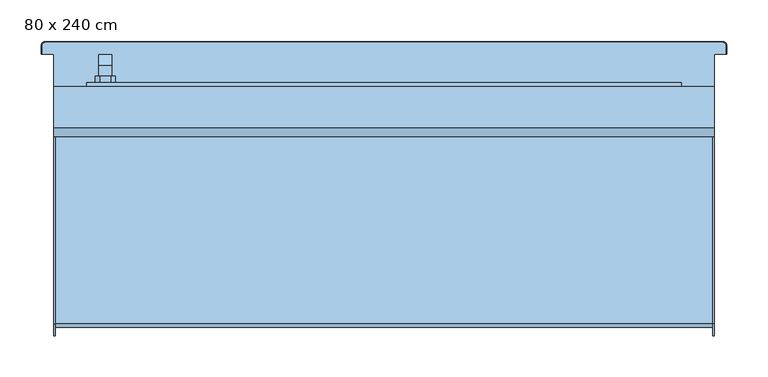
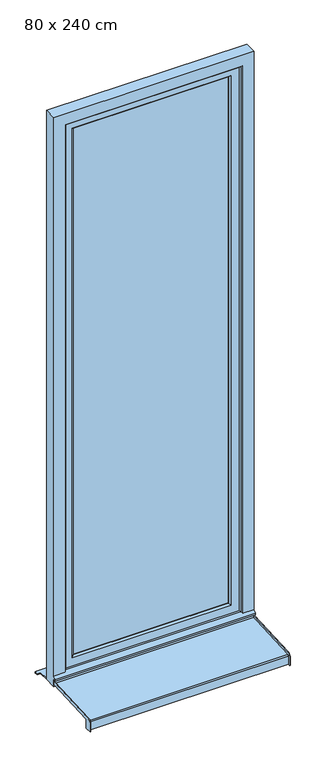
"""IFC4 building model written with IfcOpenShell, lengths in millimetres: window geometry, Fenêtre type 1 : 80 x 240 cm."""

from ifc_helpers import new_model, si_unit, frame, origin, place, context, project, spatial, polyline, circle_curve, outline, extrude, faceted_brep, source, transform, mapped, element, save
from ifc_brep_helpers import plane_surface, cylinder_surface, revolved_surface, advanced_brep


def window_80_x_240_cm_e62f5820(model_context):
    return source(origin(), model_context, "Body", "SolidModel", [
        faceted_brep([(-345.5, 123.0, 1306.0), (-345.5, 123.0, 1294.0), (-329.5, 123.0, 1294.0), (-329.5, 123.0, 1306.0), (-329.5, 135.4852814, 1306.0), (-345.5, 135.4852814, 1306.0), (-329.5, 130.5147186, 1294.0), (-329.5, 137.0, 1287.5147186), (-329.5, 137.0, 1287.2282668), (-329.5, 139.7580139, 1208.5355339), (-329.5, 149.0, 1208.5355339), (-329.5, 149.0, 1292.4852814), (-345.5, 130.5147186, 1294.0), (-345.5, 149.0, 1292.4852814), (-345.5, 149.0, 1208.5355339), (-345.5, 139.7580139, 1208.5355339), (-345.5, 137.0099909, 1287.2286157), (-345.5, 137.0, 1287.5147186), (-333.0355339, 149.0, 1205.0), (-333.0355339, 139.8814775, 1205.0), (-341.9644661, 139.8814775, 1205.0), (-341.9644661, 149.0, 1205.0)], [[[0, 1, 2, 3]], [[3, 4, 5, 0]], [[2, 6, 7, 8, 9, 10, 11, 4, 3]], [[1, 12, 6, 2]], [[0, 5, 13, 14, 15, 16, 17, 12, 1]], [[4, 11, 13, 5]], [[6, 12, 17, 7]], [[18, 19, 20, 21]], [[11, 10, 18, 21, 14, 13]], [[17, 16, 8, 7]], [[16, 15, 20, 19, 9, 8]], [[9, 19, 18, 10]], [[14, 21, 20, 15]]]),
        extrude(outline(polyline([(1330.0, -344.5), (1325.0, -349.5), (1275.0, -349.5), (1270.0, -344.5), (1270.0, -330.5), (1275.0, -325.5), (1325.0, -325.5), (1330.0, -330.5), (1330.0, -344.5)])), frame((0.0, 115.0, 0.0), z_axis=(0.0, 1.0, 0.0), x_axis=(0.0, 0.0, 1.0)), (0.0, 0.0, 1.0), 8.0),
        advanced_brep(
        [(-400.0, -165.0, 762.0), (-400.0, -191.5, 762.0), (-400.0, -191.5, 795.1063906), (-400.0, -177.2850393, 810.0858337), (-400.0, 60.0, 822.5214156), (-400.0, 60.0, 811.0056336), (-400.0, -165.0, 799.2138833), (400.0, -165.0, 799.2138833), (400.0, 60.0, 811.0056336), (400.0, 60.0, 822.5214156), (400.0, -177.2850393, 810.0858337), (400.0, -191.5, 795.1063906), (400.0, -191.5, 762.0), (400.0, -165.0, 762.0), (-398.0, 60.0, 822.5214156), (-398.0, 60.0, 812.5076922), (398.0, 60.0, 812.5076922), (398.0, 60.0, 822.5214156), (-398.0, -176.7616798, 800.0995383), (398.0, -176.7616798, 800.0995383), (398.0, -181.5, 795.1063906), (-398.0, -181.5, 795.1063906), (-398.0, -181.5, 762.0), (398.0, -181.5, 762.0), (-398.0, -180.0, 762.0), (398.0, -180.0, 762.0), (398.0, -165.0, 762.0), (398.0, -191.5, 762.0), (-398.0, -191.5, 762.0), (-398.0, -165.0, 762.0), (-398.0, -170.0, 772.0), (398.0, -170.0, 772.0), (-398.0, -171.0606602, 773.0606602), (398.0, -171.0606602, 773.0606602), (-398.0, -180.0, 764.1213203), (398.0, -180.0, 764.1213203), (-398.0, -180.0, 795.0728058), (398.0, -180.0, 795.0728058), (-398.0, -165.0, 799.2138833), (398.0, -165.0, 799.2138833), (398.0, -176.649637, 798.6033517), (-398.0, -176.649637, 798.6033517), (398.0, -191.5, 795.1063906), (398.0, -177.2850393, 810.0858337), (-398.0, -177.2850393, 810.0858337), (-398.0, -191.5, 795.1063906)],
        [
            (0, 1),
            (1, 2),
            (2, 3, circle_curve(frame((-400.0, -176.5, 795.1063906), z_axis=(-1.0, 0.0, 0.0), x_axis=(0.0, -0.05233595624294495, 0.9986295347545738)), 15.0)),
            (3, 4),
            (4, 5),
            (5, 6),
            (6, 0),
            (7, 8),
            (8, 9),
            (9, 10),
            (10, 11, circle_curve(frame((400.0, -176.5, 795.1063906), z_axis=(1.0, 0.0, 0.0), x_axis=(0.0, -1.0, 0.0)), 15.0)),
            (11, 12),
            (12, 13),
            (13, 7),
            (14, 15),
            (15, 16),
            (16, 17),
            (17, 9),
            (8, 5),
            (4, 14),
            (18, 19),
            (19, 16),
            (15, 18),
            (20, 21),
            (21, 22),
            (22, 23),
            (23, 20),
            (24, 25),
            (25, 26),
            (26, 13),
            (12, 27),
            (27, 23),
            (22, 28),
            (28, 1),
            (0, 29),
            (29, 24),
            (30, 31),
            (31, 25),
            (24, 30),
            (32, 33),
            (33, 31),
            (30, 32),
            (34, 35),
            (35, 33),
            (32, 34),
            (36, 37),
            (37, 35),
            (34, 36),
            (38, 6),
            (7, 39),
            (39, 40),
            (40, 41),
            (41, 38),
            (41, 36, circle_curve(frame((-398.0, -176.4646089, 795.0728058), z_axis=(1.0, 0.0, 0.0), x_axis=(0.0, 1.0, 0.0)), 3.5353911)),
            (29, 38),
            (37, 40, circle_curve(frame((398.0, -176.4646089, 795.0728058), z_axis=(-1.0, 0.0, 0.0), x_axis=(0.0, 1.0, 0.0)), 3.5353911)),
            (39, 26),
            (18, 21, circle_curve(frame((-398.0, -176.5, 795.1063906), z_axis=(1.0, 0.0, 0.0), x_axis=(0.0, 1.0, 0.0)), 5.0)),
            (20, 19, circle_curve(frame((398.0, -176.5, 795.1063906), z_axis=(-1.0, 0.0, 0.0), x_axis=(0.0, 1.0, 0.0)), 5.0)),
            (27, 42),
            (42, 43, circle_curve(frame((398.0, -176.5, 795.1063906), z_axis=(-1.0, 0.0, 0.0), x_axis=(0.0, -1.0, 0.0)), 15.0)),
            (43, 17),
            (11, 42),
            (10, 43),
            (14, 44),
            (44, 45, circle_curve(frame((-398.0, -176.5, 795.1063906), z_axis=(1.0, 0.0, 0.0), x_axis=(0.0, -0.05233595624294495, 0.9986295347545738)), 15.0)),
            (45, 28),
            (3, 44),
            (2, 45),
        ],
        [
            plane_surface(frame((-400.0, 60.0, 811.0056336), z_axis=(-1.0, 0.0, 0.0), x_axis=(0.0, 0.0, 1.0))),
            plane_surface(frame((400.0, 60.0, 811.0056336), z_axis=(1.0, 0.0, 0.0), x_axis=(0.0, 0.0, -1.0))),
            plane_surface(frame((-400.0, 60.0, 811.0056336), z_axis=(0.0, 1.0, 0.0), x_axis=(1.0, 0.0, 0.0))),
            plane_surface(frame((-400.0, 60.0, 812.5076922), z_axis=(0.0, -0.05233595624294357, 0.9986295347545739), x_axis=(1.0, 0.0, 0.0))),
            plane_surface(frame((-400.0, -181.5, 795.1063906), z_axis=(0.0, -1.0, 0.0), x_axis=(1.0, 0.0, 0.0))),
            plane_surface(frame((-400.0, -181.5, 762.0), z_axis=(0.0, 0.0, -1.0), x_axis=(1.0, 0.0, 0.0))),
            plane_surface(frame((-400.0, -180.0, 762.0), z_axis=(0.0, 0.7071067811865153, -0.7071067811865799), x_axis=(1.0, 0.0, 0.0))),
            plane_surface(frame((-400.0, -170.0, 772.0), z_axis=(0.0, 0.7071067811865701, 0.707106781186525), x_axis=(1.0, 0.0, 0.0))),
            plane_surface(frame((-400.0, -171.0606602, 773.0606602), z_axis=(0.0, -0.7071067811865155, 0.7071067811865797), x_axis=(1.0, 0.0, 0.0))),
            plane_surface(frame((-400.0, -180.0, 764.1213203), z_axis=(0.0, 1.0, 0.0), x_axis=(1.0, 0.0, 0.0))),
            plane_surface(frame((-400.0, -176.649637, 798.6033517), z_axis=(0.0, 0.052335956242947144, -0.9986295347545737), x_axis=(1.0, 0.0, 0.0))),
            plane_surface(frame((-398.0, -180.0, 798.4277666), z_axis=(1.0, 0.0, 0.0), x_axis=(0.0, 0.9986295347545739, 0.05233595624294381))),
            plane_surface(frame((-400.0, -165.0, 762.0), z_axis=(0.0, 1.0, 0.0), x_axis=(1.0, 0.0, 0.0))),
            plane_surface(frame((398.0, -180.0, 798.4277666), z_axis=(-1.0, 0.0, 0.0), x_axis=(0.0, 0.0, -1.0))),
            plane_surface(frame((398.0, -165.0, 762.0), z_axis=(0.0, 1.0, 0.0), x_axis=(1.0, 0.0, 0.0))),
            cylinder_surface(frame((400.0, -176.5, 795.1063906), z_axis=(-1.0, 0.0, 0.0), x_axis=(0.0, 1.0, 0.0)), 5.0),
            revolved_surface(polyline([(398.0, -172.9292178, 795.0728058), (-398.0, -172.9292178, 795.0728058)]), (400.0, -176.4646089, 795.0728058), (1.0, 0.0, 0.0)),
            plane_surface(frame((398.0, -181.5, 762.0), z_axis=(-1.0, 0.0, 0.0), x_axis=(0.0, 0.0, 1.0))),
            plane_surface(frame((398.0, -191.5, 762.0), z_axis=(0.0, -1.0, 0.0), x_axis=(0.0, 0.0, 1.0))),
            cylinder_surface(frame((400.0, -176.5, 795.1063906), z_axis=(1.0, 0.0, 0.0), x_axis=(0.0, -1.0, 0.0)), 15.0),
            plane_surface(frame((398.0, -177.2850393, 810.0858337), z_axis=(0.0, -0.05233595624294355, 0.9986295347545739), x_axis=(0.0, 0.9986295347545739, 0.05233595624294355))),
            plane_surface(frame((-398.0, 60.0, 822.5214156), z_axis=(1.0, 0.0, 0.0), x_axis=(0.0, 0.9986295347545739, 0.05233595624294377))),
            plane_surface(frame((-400.0, 60.0, 822.5214156), z_axis=(0.0, -0.05233595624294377, 0.9986295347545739), x_axis=(1.0, 0.0, 0.0))),
            cylinder_surface(frame((-400.0, -176.5, 795.1063906), z_axis=(-1.0, 0.0, 0.0), x_axis=(0.0, -0.05233595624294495, 0.9986295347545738)), 15.0),
            plane_surface(frame((-398.0, -191.5, 795.1063906), z_axis=(0.0, -1.0, 0.0), x_axis=(0.0, 0.0, -1.0))),
        ],
        [
            (0, [[1, 2, 3, 4, 5, 6, 7]]),
            (1, [[8, 9, 10, 11, 12, 13, 14]]),
            (2, [[15, 16, 17, 18, -9, 19, -5, 20]]),
            (3, [[21, 22, -16, 23]]),
            (4, [[24, 25, 26, 27]]),
            (5, [[28, 29, 30, -13, 31, 32, -26, 33, 34, -1, 35, 36]]),
            (6, [[37, 38, -28, 39]]),
            (7, [[40, 41, -37, 42]]),
            (8, [[43, 44, -40, 45]]),
            (9, [[46, 47, -43, 48]]),
            (10, [[49, -6, -19, -8, 50, 51, 52, 53]]),
            (11, [[-53, 54, -48, -45, -42, -39, -36, 55]]),
            (12, [[-35, -7, -49, -55]]),
            (13, [[-38, -41, -44, -47, 56, -51, 57, -29]]),
            (14, [[-50, -14, -30, -57]]),
            (15, [[-21, 58, -24, 59]]),
            (16, [[-52, -56, -46, -54]]),
            (17, [[60, 61, 62, -17, -22, -59, -27, -32]]),
            (18, [[-12, 63, -60, -31]]),
            (19, [[64, -61, -63, -11]]),
            (20, [[-10, -18, -62, -64]]),
            (21, [[65, 66, 67, -33, -25, -58, -23, -15]]),
            (22, [[68, -65, -20, -4]]),
            (23, [[69, -66, -68, -3]]),
            (24, [[-34, -67, -69, -2]]),
        ],
    ),
        extrude(outline(polyline([(-310.0, 105.0), (310.0, 105.0), (310.0, 85.0), (-310.0, 85.0), (-310.0, 105.0)])), frame((0.0, 0.0, 890.0), z_axis=(0.0, 0.0, 1.0), x_axis=(1.0, 0.0, 0.0)), (0.0, 0.0, 1.0), 2220.0),
        faceted_brep([(-360.0, 115.0, 840.0), (360.0, 115.0, 840.0), (360.0, 75.0, 840.0), (-360.0, 75.0, 840.0), (360.0, 115.0, 3160.0), (360.0, 75.0, 3160.0), (-360.0, 75.0, 3160.0), (317.0710678, 75.0, 3117.0710678), (317.0710678, 75.0, 882.9289322), (-317.0710678, 75.0, 882.9289322), (-317.0710678, 75.0, 3117.0710678), (-360.0, 115.0, 3160.0), (317.0710678, 115.0, 882.9289322), (317.0710678, 115.0, 3117.0710678), (-317.0710678, 115.0, 3117.0710678), (-317.0710678, 115.0, 882.9289322), (-310.0, 107.9289322, 890.0), (310.0, 107.9289322, 890.0), (310.0, 107.9289322, 3110.0), (310.0, 82.0710678, 890.0), (310.0, 82.0710678, 3110.0), (-310.0, 82.0710678, 890.0), (-310.0, 107.9289322, 3110.0), (-310.0, 82.0710678, 3110.0)], [[[0, 1, 2, 3]], [[1, 4, 5, 2]], [[2, 5, 6, 3], [7, 8, 9, 10]], [[4, 1, 0, 11], [12, 13, 14, 15]], [[16, 17, 12, 15]], [[17, 18, 13, 12]], [[19, 20, 18, 17]], [[9, 8, 19, 21]], [[8, 7, 20, 19]], [[11, 0, 3, 6]], [[22, 16, 15, 14]], [[23, 21, 16, 22]], [[10, 9, 21, 23]], [[21, 19, 17, 16]], [[4, 11, 6, 5]], [[18, 22, 14, 13]], [[7, 10, 23, 20]], [[20, 23, 22, 18]]]),
        faceted_brep([(400.0, 60.0, 800.0), (400.0, 110.0, 800.0), (400.0, 110.0, 3200.0), (400.0, 60.0, 3200.0), (400.0, 60.0, 845.0), (400.0, 50.0, 835.0), (400.0, 50.0, 830.0), (400.0, 60.0, 830.0), (-400.0, 60.0, 830.0), (-400.0, 60.0, 800.0), (-400.0, 50.0, 830.0), (-400.0, 50.0, 835.0), (355.0, 60.0, 845.0), (350.0, 65.0, 850.0), (-350.0, 65.0, 850.0), (-355.0, 60.0, 845.0), (-400.0, 60.0, 845.0), (-400.0, 60.0, 3200.0), (-355.0, 60.0, 3155.0), (355.0, 60.0, 3155.0), (-400.0, 110.0, 800.0), (-400.0, 110.0, 3200.0), (360.0, 110.0, 840.0), (360.0, 110.0, 3160.0), (-360.0, 110.0, 3160.0), (-360.0, 110.0, 840.0), (-360.0, 75.0, 840.0), (360.0, 75.0, 840.0), (-360.0, 75.0, 3160.0), (360.0, 75.0, 3160.0), (350.0, 75.0, 850.0), (350.0, 75.0, 3150.0), (-350.0, 75.0, 3150.0), (-350.0, 75.0, 850.0), (-350.0, 65.0, 3150.0), (350.0, 65.0, 3150.0)], [[[0, 1, 2, 3, 4, 5, 6, 7]], [[7, 8, 9, 0]], [[6, 10, 8, 7]], [[5, 11, 10, 6]], [[5, 4, 12, 13, 14, 15, 16, 11]], [[17, 16, 15, 18, 19, 12, 4, 3]], [[1, 20, 21, 2], [22, 23, 24, 25]], [[0, 9, 20, 1]], [[9, 8, 10, 11, 16, 17, 21, 20]], [[25, 26, 27, 22]], [[26, 25, 24, 28]], [[22, 27, 29, 23]], [[29, 27, 26, 28], [30, 31, 32, 33]], [[33, 14, 13, 30]], [[34, 14, 33, 32]], [[31, 30, 13, 35]], [[35, 13, 12, 19]], [[18, 15, 14, 34]], [[3, 2, 21, 17]], [[28, 24, 23, 29]], [[31, 35, 34, 32]], [[18, 34, 35, 19]]]),
        advanced_brep(
        [(400.0, 150.0, 805.0), (413.9971508, 150.0, 805.0), (413.9971508, 160.0, 805.0), (410.0, 163.9971508, 805.0), (-410.0, 163.9971508, 805.0), (-413.9971508, 160.0, 805.0), (-413.9971508, 150.0, 805.0), (-400.0, 150.0, 805.0), (-400.0, 110.0, 805.0), (400.0, 110.0, 805.0), (-400.0, 150.0, 800.0), (-413.9971508, 150.0, 800.0), (-413.9971508, 160.0, 800.0), (-410.0, 163.9971508, 800.0), (410.0, 163.9971508, 800.0), (413.9971508, 160.0, 800.0), (413.9971508, 150.0, 800.0), (400.0, 150.0, 800.0), (400.0, 110.0, 800.0), (-400.0, 110.0, 800.0), (-415.0, 160.0, 801.0028492), (-415.0, 150.0, 801.0028492), (-415.0, 150.0, 803.9971508), (-415.0, 160.0, 803.9971508), (415.0, 150.0, 801.0028492), (415.0, 150.0, 803.9971508), (415.0, 160.0, 801.0028492), (415.0, 160.0, 803.9971508), (410.0, 165.0, 801.0028492), (-410.0, 165.0, 801.0028492), (-410.0, 165.0, 803.9971508), (410.0, 165.0, 803.9971508)],
        [
            (0, 1),
            (1, 2),
            (2, 3, circle_curve(frame((410.0, 160.0, 805.0), z_axis=(0.0, 0.0, 1.0), x_axis=(0.0, 1.0, 0.0)), 3.9971508)),
            (3, 4),
            (4, 5, circle_curve(frame((-410.0, 160.0, 805.0), z_axis=(0.0, 0.0, 1.0), x_axis=(-1.0, 0.0, 0.0)), 3.9971508)),
            (5, 6),
            (6, 7),
            (7, 8),
            (8, 9),
            (9, 0),
            (10, 11),
            (11, 12),
            (12, 13, circle_curve(frame((-410.0, 160.0, 800.0), z_axis=(0.0, 0.0, -1.0), x_axis=(-1.0, 0.0, 0.0)), 3.9971508)),
            (13, 14),
            (14, 15, circle_curve(frame((410.0, 160.0, 800.0), z_axis=(0.0, 0.0, -1.0), x_axis=(0.0, 1.0, 0.0)), 3.9971508)),
            (15, 16),
            (16, 17),
            (17, 18),
            (18, 19),
            (19, 10),
            (20, 21),
            (21, 22),
            (22, 23),
            (23, 20),
            (6, 22),
            (21, 11),
            (10, 7),
            (19, 8),
            (18, 9),
            (17, 0),
            (16, 24),
            (24, 25),
            (25, 1),
            (24, 26),
            (26, 27),
            (27, 25),
            (28, 29),
            (29, 30),
            (30, 31),
            (31, 28),
            (31, 27, circle_curve(frame((410.0, 160.0, 803.9971508), z_axis=(0.0, 0.0, -1.0), x_axis=(0.0, 1.0, 0.0)), 5.0)),
            (26, 28, circle_curve(frame((410.0, 160.0, 801.0028492), z_axis=(0.0, 0.0, 1.0), x_axis=(0.0, 1.0, 0.0)), 5.0)),
            (23, 30, circle_curve(frame((-410.0, 160.0, 803.9971508), z_axis=(0.0, 0.0, -1.0), x_axis=(0.0, 1.0, 0.0)), 5.0)),
            (29, 20, circle_curve(frame((-410.0, 160.0, 801.0028492), z_axis=(0.0, 0.0, 1.0), x_axis=(0.0, 1.0, 0.0)), 5.0)),
            (5, 23),
            (20, 12),
            (4, 30),
            (29, 13),
            (3, 31),
            (28, 14),
            (2, 27),
            (26, 15),
        ],
        [
            plane_surface(frame((-415.0, 150.0, 805.0), z_axis=(0.0, 0.0, 1.0), x_axis=(0.0, 1.0, 0.0))),
            plane_surface(frame((-415.0, 150.0, 800.0), z_axis=(0.0, 0.0, -1.0), x_axis=(0.0, -1.0, 0.0))),
            plane_surface(frame((-415.0, 160.0, 800.0), z_axis=(-1.0, 0.0, 0.0), x_axis=(0.0, 0.0, 1.0))),
            plane_surface(frame((-415.0, 150.0, 800.0), z_axis=(0.0, -1.0, 0.0), x_axis=(0.0, 0.0, 1.0))),
            plane_surface(frame((-400.0, 150.0, 800.0), z_axis=(-1.0, 0.0, 0.0), x_axis=(0.0, 0.0, 1.0))),
            plane_surface(frame((-400.0, 110.0, 800.0), z_axis=(0.0, -1.0, 0.0), x_axis=(0.0, 0.0, 1.0))),
            plane_surface(frame((400.0, 110.0, 800.0), z_axis=(1.0, 0.0, 0.0), x_axis=(0.0, 0.0, 1.0))),
            plane_surface(frame((400.0, 150.0, 800.0), z_axis=(0.0, -1.0, 0.0), x_axis=(0.0, 0.0, 1.0))),
            plane_surface(frame((415.0, 150.0, 800.0), z_axis=(1.0, 0.0, 0.0), x_axis=(0.0, 0.0, 1.0))),
            plane_surface(frame((410.0, 165.0, 800.0), z_axis=(0.0, 1.0, 0.0), x_axis=(0.0, 0.0, 1.0))),
            cylinder_surface(frame((410.0, 160.0, 805.0), z_axis=(0.0, 0.0, -1.0), x_axis=(0.0, 1.0, 0.0)), 5.0),
            cylinder_surface(frame((-410.0, 160.0, 805.0), z_axis=(0.0, 0.0, -1.0), x_axis=(0.0, 1.0, 0.0)), 5.0),
            plane_surface(frame((-413.9971508, 150.0, 805.0), z_axis=(-0.7071067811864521, 0.0, 0.707106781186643), x_axis=(0.0, 1.0, 0.0))),
            plane_surface(frame((-415.0, 150.0, 801.0028492), z_axis=(-0.7071067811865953, 0.0, -0.7071067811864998), x_axis=(0.0, 1.0, 0.0))),
            revolved_surface(polyline([(-415.0, 160.0, 803.9971508), (-413.9971508, 160.0, 805.0)]), (-410.0, 160.0, 805.0), (0.0, 0.0, 1.0)),
            revolved_surface(polyline([(-413.9971508, 160.0, 800.0), (-415.0, 160.0, 801.0028492)]), (-410.0, 160.0, 805.0), (0.0, 0.0, 1.0)),
            plane_surface(frame((-410.0, 163.9971508, 805.0), z_axis=(0.0, 0.7071067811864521, 0.707106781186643), x_axis=(1.0, 0.0, 0.0))),
            plane_surface(frame((-410.0, 165.0, 801.0028492), z_axis=(0.0, 0.7071067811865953, -0.7071067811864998), x_axis=(1.0, 0.0, 0.0))),
            revolved_surface(polyline([(410.0, 165.0, 803.9971508), (410.0, 163.9971508, 805.0)]), (410.0, 160.0, 805.0), (0.0, 0.0, 1.0)),
            revolved_surface(polyline([(410.0, 163.9971508, 800.0), (410.0, 165.0, 801.0028492)]), (410.0, 160.0, 805.0), (0.0, 0.0, 1.0)),
            plane_surface(frame((413.9971508, 160.0, 805.0), z_axis=(0.7071067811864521, 0.0, 0.707106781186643), x_axis=(0.0, -1.0, 0.0))),
            plane_surface(frame((415.0, 160.0, 801.0028492), z_axis=(0.7071067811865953, 0.0, -0.7071067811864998), x_axis=(0.0, -1.0, 0.0))),
        ],
        [
            (0, [[1, 2, 3, 4, 5, 6, 7, 8, 9, 10]]),
            (1, [[11, 12, 13, 14, 15, 16, 17, 18, 19, 20]]),
            (2, [[21, 22, 23, 24]]),
            (3, [[-7, 25, -22, 26, -11, 27]]),
            (4, [[-27, -20, 28, -8]]),
            (5, [[-28, -19, 29, -9]]),
            (6, [[-29, -18, 30, -10]]),
            (7, [[-17, 31, 32, 33, -1, -30]]),
            (8, [[34, 35, 36, -32]]),
            (9, [[37, 38, 39, 40]]),
            (10, [[41, -35, 42, -40]]),
            (11, [[43, -38, 44, -24]]),
            (12, [[-23, -25, -6, 45]]),
            (13, [[-12, -26, -21, 46]]),
            (14, [[-5, 47, -43, -45]]),
            (15, [[-44, 48, -13, -46]]),
            (16, [[-4, 49, -39, -47]]),
            (17, [[-37, 50, -14, -48]]),
            (18, [[-3, 51, -41, -49]]),
            (19, [[-42, 52, -15, -50]]),
            (20, [[-2, -33, -36, -51]]),
            (21, [[-34, -31, -16, -52]]),
        ],
    ),
    ])


if __name__ == "__main__":
    model = new_model("IFC4")
    model_context = context("Model", 3, world=origin())
    ifc_project = project(units=[si_unit("LENGTHUNIT", "METRE", prefix="MILLI")], contexts=[model_context])
    site = spatial("IfcSite", under=ifc_project)
    building = spatial("IfcBuilding", under=site)
    placement = place(None, origin())
    window_80_x_240_cm_shape = window_80_x_240_cm_e62f5820(model_context)
    element("IfcWindow", 1, ObjectType="Fenêtre type 1 : 80 x 240 cm", at=placement, inside=building, context=model_context, shape_type="MappedRepresentation", body=[
        mapped(window_80_x_240_cm_shape, transform((0.0, 0.0, 0.0), x_axis=(1.0, 0.0, 0.0), y_axis=(0.0, 1.0, 0.0), z_axis=(0.0, 0.0, 1.0))),
    ])
    save(model, "model.ifc")
